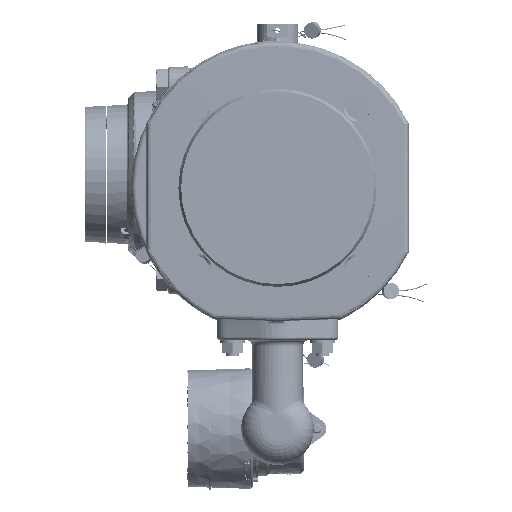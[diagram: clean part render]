
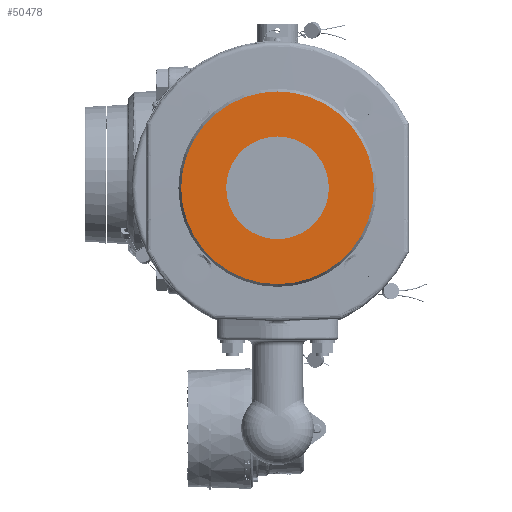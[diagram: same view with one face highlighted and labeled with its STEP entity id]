
A CAD part, left-side view. The second image highlights one B-rep face of the part: STEP entity #50478.
In plain terms, the highlighted planar face has unit normal (-1, 0, 0).
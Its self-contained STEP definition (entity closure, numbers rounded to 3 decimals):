
#901 = FACE_OUTER_BOUND ( 'NONE', #59795, .T. ) ;
#35113 = ORIENTED_EDGE ( 'NONE', *, *, #105978, .T. ) ;
#48303 = ORIENTED_EDGE ( 'NONE', *, *, #170752, .F. ) ;
#48873 = DIRECTION ( 'NONE',  ( 0., 1., 0. ) ) ;
#50478 = ADVANCED_FACE ( 'NONE', ( #231004, #901 ), #92743, .F. ) ;
#51163 = ORIENTED_EDGE ( 'NONE', *, *, #69424, .F. ) ;
#56924 = DIRECTION ( 'NONE',  ( -1., 0., 0. ) ) ;
#59795 = EDGE_LOOP ( 'NONE', ( #35113, #196547 ) ) ;
#60149 = VERTEX_POINT ( 'NONE', #171074 ) ;
#63919 = CARTESIAN_POINT ( 'NONE',  ( -201., 0., 0. ) ) ;
#69424 = EDGE_CURVE ( 'NONE', #60149, #194940, #193559, .T. ) ;
#71743 = DIRECTION ( 'NONE',  ( 0., -1., 0. ) ) ;
#75380 = CARTESIAN_POINT ( 'NONE',  ( -201., 61., 0. ) ) ;
#79960 = DIRECTION ( 'NONE',  ( 0., 1., 0. ) ) ;
#81227 = CARTESIAN_POINT ( 'NONE',  ( -201., -32.5, 0. ) ) ;
#81522 = AXIS2_PLACEMENT_3D ( 'NONE', #63919, #56924, #147171 ) ;
#87441 = VERTEX_POINT ( 'NONE', #75380 ) ;
#88003 = AXIS2_PLACEMENT_3D ( 'NONE', #290064, #243545, #247961 ) ;
#92743 = PLANE ( 'NONE',  #262538 ) ;
#94236 = CARTESIAN_POINT ( 'NONE',  ( -201., 0., 0. ) ) ;
#95708 = CARTESIAN_POINT ( 'NONE',  ( -201., -61., 0. ) ) ;
#102414 = DIRECTION ( 'NONE',  ( -1., 0., 0. ) ) ;
#105978 = EDGE_CURVE ( 'NONE', #197055, #87441, #179214, .T. ) ;
#147171 = DIRECTION ( 'NONE',  ( 0., 1., 0. ) ) ;
#153582 = CARTESIAN_POINT ( 'NONE',  ( -201., 0., 0. ) ) ;
#170752 = EDGE_CURVE ( 'NONE', #194940, #60149, #179601, .T. ) ;
#171074 = CARTESIAN_POINT ( 'NONE',  ( -201., 32.5, 0. ) ) ;
#174234 = EDGE_LOOP ( 'NONE', ( #51163, #48303 ) ) ;
#179214 = CIRCLE ( 'NONE', #88003, 61. ) ;
#179601 = CIRCLE ( 'NONE', #217997, 32.5 ) ;
#193559 = CIRCLE ( 'NONE', #231864, 32.5 ) ;
#194940 = VERTEX_POINT ( 'NONE', #81227 ) ;
#196547 = ORIENTED_EDGE ( 'NONE', *, *, #247507, .T. ) ;
#197055 = VERTEX_POINT ( 'NONE', #95708 ) ;
#208235 = DIRECTION ( 'NONE',  ( -1., 0., 0. ) ) ;
#217997 = AXIS2_PLACEMENT_3D ( 'NONE', #280254, #208235, #48873 ) ;
#231004 = FACE_BOUND ( 'NONE', #174234, .T. ) ;
#231864 = AXIS2_PLACEMENT_3D ( 'NONE', #153582, #102414, #79960 ) ;
#243545 = DIRECTION ( 'NONE',  ( -1., 0., 0. ) ) ;
#247507 = EDGE_CURVE ( 'NONE', #87441, #197055, #278092, .T. ) ;
#247961 = DIRECTION ( 'NONE',  ( 0., 1., 0. ) ) ;
#262538 = AXIS2_PLACEMENT_3D ( 'NONE', #94236, #277529, #71743 ) ;
#277529 = DIRECTION ( 'NONE',  ( 1., 0., 0. ) ) ;
#278092 = CIRCLE ( 'NONE', #81522, 61. ) ;
#280254 = CARTESIAN_POINT ( 'NONE',  ( -201., 0., 0. ) ) ;
#290064 = CARTESIAN_POINT ( 'NONE',  ( -201., 0., 0. ) ) ;
